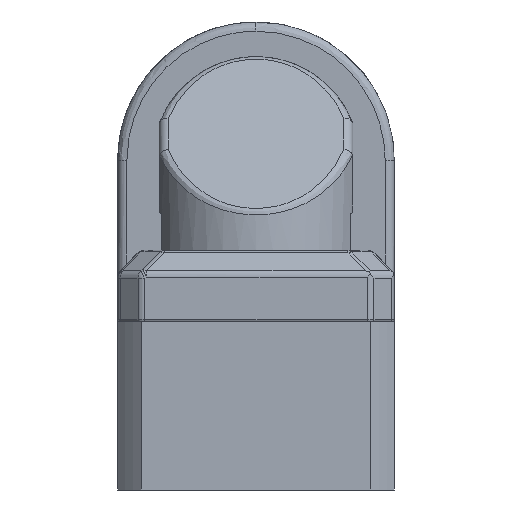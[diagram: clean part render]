
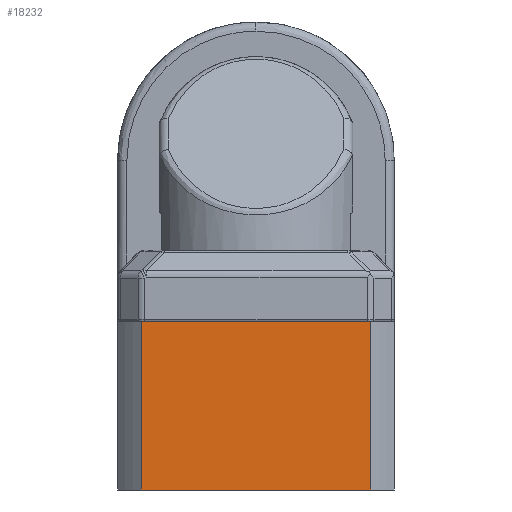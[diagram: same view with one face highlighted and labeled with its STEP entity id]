
A CAD part, front view. The second image highlights one B-rep face of the part: STEP entity #18232.
In plain terms, the highlighted planar face has unit normal (0, -1, 0).
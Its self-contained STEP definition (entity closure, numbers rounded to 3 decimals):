
#1401 = ORIENTED_EDGE ( 'NONE', *, *, #37355, .T. ) ;
#2498 = CARTESIAN_POINT ( 'NONE',  ( -30., -30., -36.5 ) ) ;
#3652 = VERTEX_POINT ( 'NONE', #10077 ) ;
#6436 = LINE ( 'NONE', #49466, #36795 ) ;
#6667 = EDGE_CURVE ( 'NONE', #3652, #35426, #33112, .T. ) ;
#7465 = AXIS2_PLACEMENT_3D ( 'NONE', #2498, #18362, #46033 ) ;
#8576 = ORIENTED_EDGE ( 'NONE', *, *, #27102, .T. ) ;
#10077 = CARTESIAN_POINT ( 'NONE',  ( 24.92, -30., 0. ) ) ;
#10627 = CARTESIAN_POINT ( 'NONE',  ( -30., -30., 0. ) ) ;
#10756 = DIRECTION ( 'NONE',  ( 0., 0., -1. ) ) ;
#14379 = PLANE ( 'NONE',  #7465 ) ;
#14521 = DIRECTION ( 'NONE',  ( 1., 0., 0. ) ) ;
#15561 = EDGE_CURVE ( 'NONE', #39020, #35426, #6436, .T. ) ;
#17013 = ORIENTED_EDGE ( 'NONE', *, *, #6667, .F. ) ;
#17578 = VECTOR ( 'NONE', #34359, 1000. ) ;
#18232 = ADVANCED_FACE ( 'NONE', ( #30079 ), #14379, .T. ) ;
#18362 = DIRECTION ( 'NONE',  ( 0., -1., 0. ) ) ;
#19922 = EDGE_LOOP ( 'NONE', ( #8576, #29209, #17013, #1401 ) ) ;
#26445 = CARTESIAN_POINT ( 'NONE',  ( 24.92, -30., 0. ) ) ;
#27102 = EDGE_CURVE ( 'NONE', #49550, #39020, #37363, .T. ) ;
#28189 = LINE ( 'NONE', #10627, #17578 ) ;
#29209 = ORIENTED_EDGE ( 'NONE', *, *, #15561, .T. ) ;
#29686 = CARTESIAN_POINT ( 'NONE',  ( -24.92, -30., 0. ) ) ;
#30079 = FACE_OUTER_BOUND ( 'NONE', #19922, .T. ) ;
#33112 = LINE ( 'NONE', #26445, #43613 ) ;
#34359 = DIRECTION ( 'NONE',  ( -1., 0., 0. ) ) ;
#34484 = CARTESIAN_POINT ( 'NONE',  ( -24.92, -30., -36.5 ) ) ;
#35426 = VERTEX_POINT ( 'NONE', #50652 ) ;
#36170 = VECTOR ( 'NONE', #10756, 1000. ) ;
#36795 = VECTOR ( 'NONE', #14521, 1000. ) ;
#37355 = EDGE_CURVE ( 'NONE', #3652, #49550, #28189, .T. ) ;
#37363 = LINE ( 'NONE', #34484, #36170 ) ;
#39020 = VERTEX_POINT ( 'NONE', #45123 ) ;
#43613 = VECTOR ( 'NONE', #50255, 1000. ) ;
#45123 = CARTESIAN_POINT ( 'NONE',  ( -24.92, -30., -36.5 ) ) ;
#46033 = DIRECTION ( 'NONE',  ( 0., 0., -1. ) ) ;
#49466 = CARTESIAN_POINT ( 'NONE',  ( 0., -30., -36.5 ) ) ;
#49550 = VERTEX_POINT ( 'NONE', #29686 ) ;
#50255 = DIRECTION ( 'NONE',  ( 0., 0., -1. ) ) ;
#50652 = CARTESIAN_POINT ( 'NONE',  ( 24.92, -30., -36.5 ) ) ;
